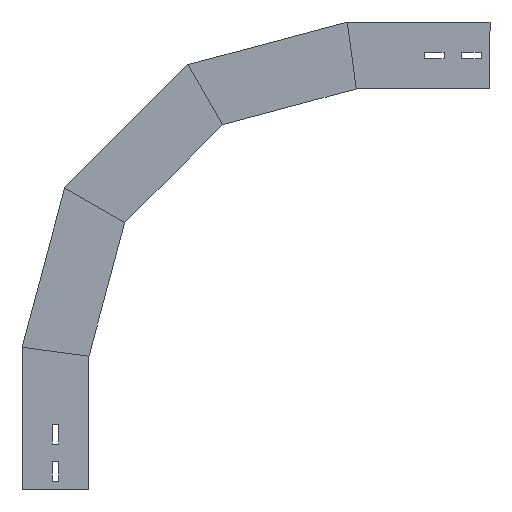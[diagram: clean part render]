
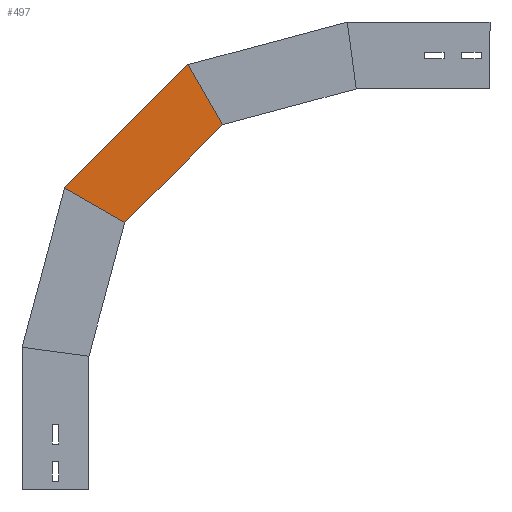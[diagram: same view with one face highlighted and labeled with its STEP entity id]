
A CAD part, left-side view. The second image highlights one B-rep face of the part: STEP entity #497.
In plain terms, the highlighted planar face has unit normal (-1, 0, 0) as drawn and (1, 0, 0) by its records, which use the part's own axes.
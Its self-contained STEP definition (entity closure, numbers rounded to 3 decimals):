
#33 = EDGE_LOOP ( 'NONE', ( #1815, #1465, #1847, #1343 ) ) ;
#36 = EDGE_CURVE ( 'NONE', #1334, #1120, #600, .T. ) ;
#38 = VERTEX_POINT ( 'NONE', #160 ) ;
#160 = CARTESIAN_POINT ( 'NONE',  ( 0., -110.896, 476.563 ) ) ;
#162 = VECTOR ( 'NONE', #468, 1000. ) ;
#195 = CARTESIAN_POINT ( 'NONE',  ( 0., -149.719, 409.32 ) ) ;
#235 = DIRECTION ( 'NONE',  ( 0., 0., -1. ) ) ;
#380 = CARTESIAN_POINT ( 'NONE',  ( 0., 27.126, 338.541 ) ) ;
#450 = CARTESIAN_POINT ( 'NONE',  ( 0., -77.316, 278.242 ) ) ;
#468 = DIRECTION ( 'NONE',  ( 0., -0.866, -0.5 ) ) ;
#491 = VECTOR ( 'NONE', #1187, 1000. ) ;
#497 = ADVANCED_FACE ( 'NONE', ( #1412 ), #1253, .T. ) ;
#588 = LINE ( 'NONE', #1610, #491 ) ;
#600 = LINE ( 'NONE', #450, #162 ) ;
#619 = EDGE_CURVE ( 'NONE', #1120, #1418, #588, .T. ) ;
#726 = CARTESIAN_POINT ( 'NONE',  ( 0., -40.117, 299.719 ) ) ;
#880 = LINE ( 'NONE', #1738, #1512 ) ;
#989 = CARTESIAN_POINT ( 'NONE',  ( 0., -24.415, 284.017 ) ) ;
#1120 = VERTEX_POINT ( 'NONE', #726 ) ;
#1187 = DIRECTION ( 'NONE',  ( 0., -0.707, 0.707 ) ) ;
#1235 = VECTOR ( 'NONE', #1406, 1000. ) ;
#1253 = PLANE ( 'NONE',  #1717 ) ;
#1317 = DIRECTION ( 'NONE',  ( 0., -0.5, -0.866 ) ) ;
#1334 = VERTEX_POINT ( 'NONE', #380 ) ;
#1343 = ORIENTED_EDGE ( 'NONE', *, *, #36, .F. ) ;
#1368 = LINE ( 'NONE', #1677, #1235 ) ;
#1379 = EDGE_CURVE ( 'NONE', #1334, #38, #1368, .T. ) ;
#1406 = DIRECTION ( 'NONE',  ( 0., -0.707, 0.707 ) ) ;
#1412 = FACE_OUTER_BOUND ( 'NONE', #33, .T. ) ;
#1418 = VERTEX_POINT ( 'NONE', #195 ) ;
#1465 = ORIENTED_EDGE ( 'NONE', *, *, #1875, .T. ) ;
#1512 = VECTOR ( 'NONE', #1317, 1000. ) ;
#1610 = CARTESIAN_POINT ( 'NONE',  ( 0., -24.415, 284.017 ) ) ;
#1677 = CARTESIAN_POINT ( 'NONE',  ( 0., 28.618, 337.05 ) ) ;
#1717 = AXIS2_PLACEMENT_3D ( 'NONE', #989, #1859, #235 ) ;
#1738 = CARTESIAN_POINT ( 'NONE',  ( 0., -172.651, 369.6 ) ) ;
#1815 = ORIENTED_EDGE ( 'NONE', *, *, #1379, .T. ) ;
#1847 = ORIENTED_EDGE ( 'NONE', *, *, #619, .F. ) ;
#1859 = DIRECTION ( 'NONE',  ( 1., 0., 0. ) ) ;
#1875 = EDGE_CURVE ( 'NONE', #38, #1418, #880, .T. ) ;
